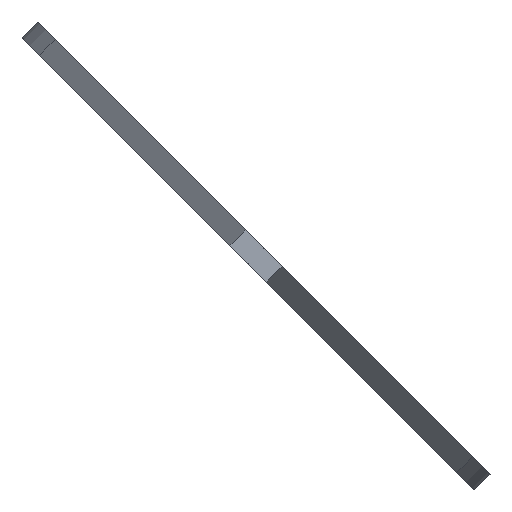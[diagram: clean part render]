
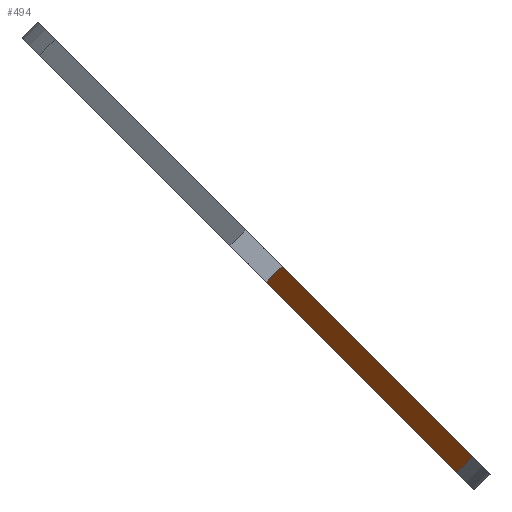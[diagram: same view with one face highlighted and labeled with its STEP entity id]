
A CAD part, front view. The second image highlights one B-rep face of the part: STEP entity #494.
In plain terms, the highlighted planar face has unit normal (0.661, -0.354, -0.661).
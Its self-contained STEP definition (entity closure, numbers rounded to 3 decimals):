
#16 = VERTEX_POINT ( 'NONE', #1319 ) ;
#66 = CARTESIAN_POINT ( 'NONE',  ( 2.677, -337.446, -2.677 ) ) ;
#116 = DIRECTION ( 'NONE',  ( 0.251, 0.935, -0.251 ) ) ;
#139 = VECTOR ( 'NONE', #1330, 1000. ) ;
#165 = EDGE_CURVE ( 'NONE', #656, #16, #204, .T. ) ;
#204 = LINE ( 'NONE', #907, #1196 ) ;
#220 = ORIENTED_EDGE ( 'NONE', *, *, #165, .F. ) ;
#253 = AXIS2_PLACEMENT_3D ( 'NONE', #312, #864, #875 ) ;
#268 = VERTEX_POINT ( 'NONE', #1400 ) ;
#303 = PLANE ( 'NONE',  #253 ) ;
#312 = CARTESIAN_POINT ( 'NONE',  ( -0.531, -349.418, 0.531 ) ) ;
#350 = DIRECTION ( 'NONE',  ( -0.707, 0., -0.707 ) ) ;
#494 = ADVANCED_FACE ( 'NONE', ( #762 ), #303, .T. ) ;
#540 = LINE ( 'NONE', #1020, #139 ) ;
#597 = VECTOR ( 'NONE', #1495, 1000. ) ;
#602 = VERTEX_POINT ( 'NONE', #1251 ) ;
#656 = VERTEX_POINT ( 'NONE', #66 ) ;
#670 = VECTOR ( 'NONE', #350, 1000. ) ;
#762 = FACE_OUTER_BOUND ( 'NONE', #1421, .T. ) ;
#782 = ORIENTED_EDGE ( 'NONE', *, *, #1120, .T. ) ;
#864 = DIRECTION ( 'NONE',  ( 0.661, -0.354, -0.661 ) ) ;
#872 = EDGE_CURVE ( 'NONE', #656, #268, #1174, .T. ) ;
#875 = DIRECTION ( 'NONE',  ( 0.251, 0.935, -0.251 ) ) ;
#907 = CARTESIAN_POINT ( 'NONE',  ( -0.531, -349.418, 0.531 ) ) ;
#1012 = CARTESIAN_POINT ( 'NONE',  ( -2.652, -349.418, -1.59 ) ) ;
#1020 = CARTESIAN_POINT ( 'NONE',  ( 27.96, -243.088, -27.96 ) ) ;
#1061 = EDGE_CURVE ( 'NONE', #268, #602, #1245, .T. ) ;
#1120 = EDGE_CURVE ( 'NONE', #602, #16, #540, .T. ) ;
#1153 = ORIENTED_EDGE ( 'NONE', *, *, #872, .T. ) ;
#1174 = LINE ( 'NONE', #1423, #670 ) ;
#1196 = VECTOR ( 'NONE', #116, 1000. ) ;
#1245 = LINE ( 'NONE', #1012, #597 ) ;
#1251 = CARTESIAN_POINT ( 'NONE',  ( 25.839, -243.088, -30.081 ) ) ;
#1319 = CARTESIAN_POINT ( 'NONE',  ( 27.96, -243.088, -27.96 ) ) ;
#1330 = DIRECTION ( 'NONE',  ( 0.707, 0., 0.707 ) ) ;
#1400 = CARTESIAN_POINT ( 'NONE',  ( 0.556, -337.446, -4.798 ) ) ;
#1404 = ORIENTED_EDGE ( 'NONE', *, *, #1061, .T. ) ;
#1421 = EDGE_LOOP ( 'NONE', ( #1404, #782, #220, #1153 ) ) ;
#1423 = CARTESIAN_POINT ( 'NONE',  ( 2.677, -337.446, -2.677 ) ) ;
#1495 = DIRECTION ( 'NONE',  ( 0.251, 0.935, -0.251 ) ) ;
